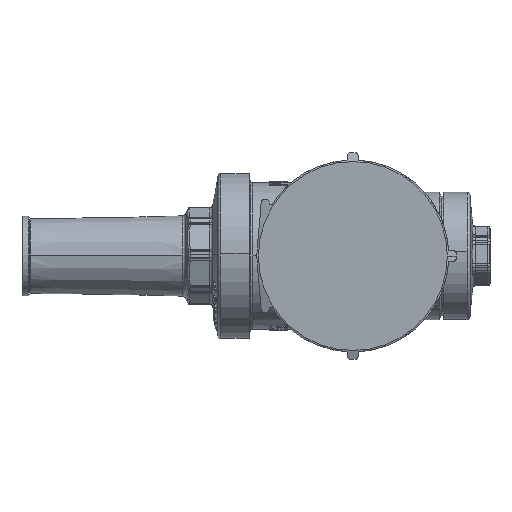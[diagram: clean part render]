
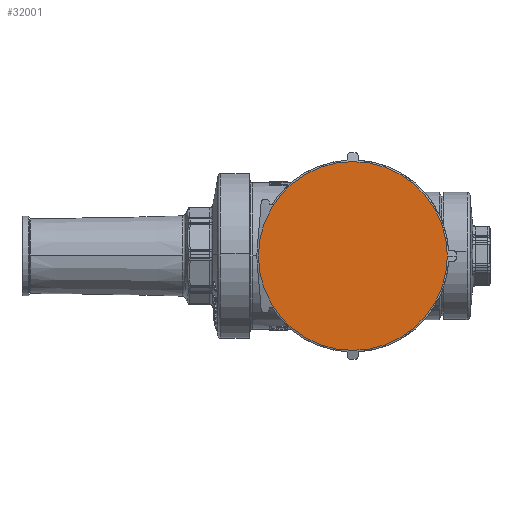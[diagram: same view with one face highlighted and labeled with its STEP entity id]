
A CAD part, left-side view. The second image highlights one B-rep face of the part: STEP entity #32001.
In plain terms, the highlighted planar face has unit normal (-1, 0, 0).
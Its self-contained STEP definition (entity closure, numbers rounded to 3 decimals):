
#1948 = ORIENTED_EDGE ( 'NONE', *, *, #19599, .T. ) ;
#6729 = CARTESIAN_POINT ( 'NONE',  ( -98.5, 74., 0. ) ) ;
#8411 = PLANE ( 'NONE',  #33616 ) ;
#8425 = VERTEX_POINT ( 'NONE', #41959 ) ;
#9545 = CIRCLE ( 'NONE', #28201, 63. ) ;
#10735 = EDGE_LOOP ( 'NONE', ( #25677, #1948 ) ) ;
#11281 = DIRECTION ( 'NONE',  ( 0., 1., 0. ) ) ;
#19599 = EDGE_CURVE ( 'NONE', #8425, #50177, #71873, .T. ) ;
#25677 = ORIENTED_EDGE ( 'NONE', *, *, #61453, .T. ) ;
#28201 = AXIS2_PLACEMENT_3D ( 'NONE', #6729, #46847, #57040 ) ;
#30538 = CARTESIAN_POINT ( 'NONE',  ( -98.5, 137., 0. ) ) ;
#32001 = ADVANCED_FACE ( 'NONE', ( #54284 ), #8411, .F. ) ;
#33616 = AXIS2_PLACEMENT_3D ( 'NONE', #65215, #37550, #69592 ) ;
#37550 = DIRECTION ( 'NONE',  ( 1., 0., 0. ) ) ;
#41959 = CARTESIAN_POINT ( 'NONE',  ( -98.5, 11., 0. ) ) ;
#46847 = DIRECTION ( 'NONE',  ( -1., 0., 0. ) ) ;
#50177 = VERTEX_POINT ( 'NONE', #30538 ) ;
#52161 = AXIS2_PLACEMENT_3D ( 'NONE', #66680, #61226, #11281 ) ;
#54284 = FACE_OUTER_BOUND ( 'NONE', #10735, .T. ) ;
#57040 = DIRECTION ( 'NONE',  ( 0., 1., 0. ) ) ;
#61226 = DIRECTION ( 'NONE',  ( -1., 0., 0. ) ) ;
#61453 = EDGE_CURVE ( 'NONE', #50177, #8425, #9545, .T. ) ;
#65215 = CARTESIAN_POINT ( 'NONE',  ( -98.5, 105.5, 0. ) ) ;
#66680 = CARTESIAN_POINT ( 'NONE',  ( -98.5, 74., 0. ) ) ;
#69592 = DIRECTION ( 'NONE',  ( 0., 1., 0. ) ) ;
#71873 = CIRCLE ( 'NONE', #52161, 63. ) ;
